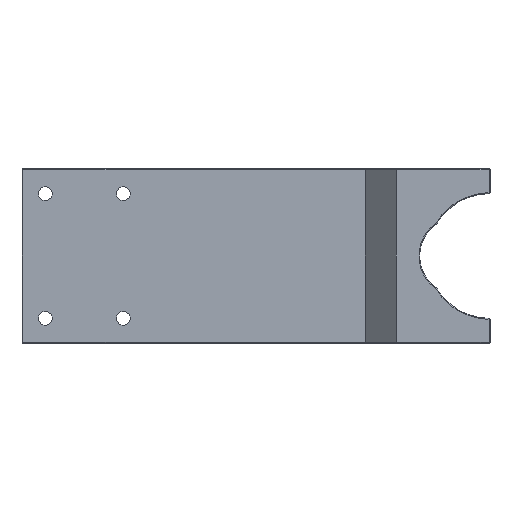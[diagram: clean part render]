
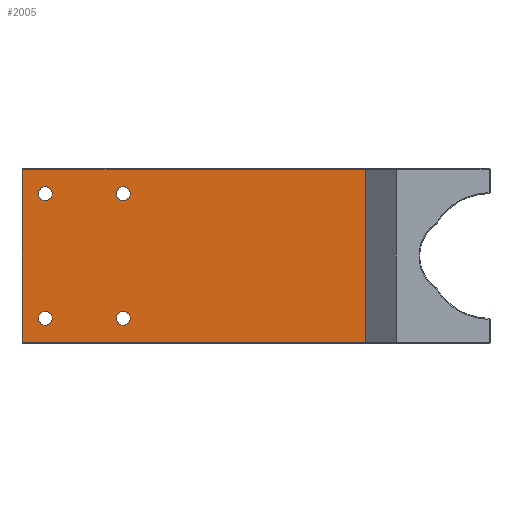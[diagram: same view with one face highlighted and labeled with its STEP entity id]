
A CAD part, front view. The second image highlights one B-rep face of the part: STEP entity #2005.
In plain terms, the highlighted planar face has unit normal (0, -1, 0).
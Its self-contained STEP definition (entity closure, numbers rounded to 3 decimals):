
#4 = DIRECTION ( 'NONE',  ( -1., 0., 0. ) ) ;
#35 = DIRECTION ( 'NONE',  ( -1., 0., 0. ) ) ;
#78 = EDGE_CURVE ( 'NONE', #1917, #2526, #967, .T. ) ;
#131 = CIRCLE ( 'NONE', #1999, 2.25 ) ;
#145 = DIRECTION ( 'NONE',  ( 0., 1., 0. ) ) ;
#161 = DIRECTION ( 'NONE',  ( -1., 0., 0. ) ) ;
#179 = CARTESIAN_POINT ( 'NONE',  ( 7.5, -13., 20. ) ) ;
#188 = FACE_OUTER_BOUND ( 'NONE', #2290, .T. ) ;
#192 = AXIS2_PLACEMENT_3D ( 'NONE', #751, #1373, #4 ) ;
#205 = DIRECTION ( 'NONE',  ( 1., 0., 0. ) ) ;
#208 = ORIENTED_EDGE ( 'NONE', *, *, #666, .T. ) ;
#224 = EDGE_LOOP ( 'NONE', ( #426, #380 ) ) ;
#226 = CARTESIAN_POINT ( 'NONE',  ( 0.3, -13., 27.7 ) ) ;
#233 = AXIS2_PLACEMENT_3D ( 'NONE', #1235, #1409, #2240 ) ;
#262 = CARTESIAN_POINT ( 'NONE',  ( 32.5, -13., -22.25 ) ) ;
#316 = CARTESIAN_POINT ( 'NONE',  ( 32.5, -13., -20. ) ) ;
#326 = LINE ( 'NONE', #1481, #1173 ) ;
#350 = LINE ( 'NONE', #545, #2053 ) ;
#379 = DIRECTION ( 'NONE',  ( -1., 0., 0. ) ) ;
#380 = ORIENTED_EDGE ( 'NONE', *, *, #1259, .T. ) ;
#393 = DIRECTION ( 'NONE',  ( 0., 1., 0. ) ) ;
#408 = FACE_BOUND ( 'NONE', #1074, .T. ) ;
#426 = ORIENTED_EDGE ( 'NONE', *, *, #609, .T. ) ;
#444 = DIRECTION ( 'NONE',  ( 0., 1., 0. ) ) ;
#457 = EDGE_LOOP ( 'NONE', ( #649, #1547 ) ) ;
#465 = CIRCLE ( 'NONE', #2039, 2.25 ) ;
#467 = CARTESIAN_POINT ( 'NONE',  ( 7.5, -13., -17.75 ) ) ;
#538 = VERTEX_POINT ( 'NONE', #467 ) ;
#545 = CARTESIAN_POINT ( 'NONE',  ( 0.3, -13., 28. ) ) ;
#609 = EDGE_CURVE ( 'NONE', #538, #1353, #1930, .T. ) ;
#646 = VECTOR ( 'NONE', #205, 1000. ) ;
#649 = ORIENTED_EDGE ( 'NONE', *, *, #1961, .T. ) ;
#654 = CARTESIAN_POINT ( 'NONE',  ( 0.3, -13., -27.7 ) ) ;
#666 = EDGE_CURVE ( 'NONE', #2192, #1799, #350, .T. ) ;
#751 = CARTESIAN_POINT ( 'NONE',  ( 7.5, -13., -20. ) ) ;
#764 = CARTESIAN_POINT ( 'NONE',  ( 110., -13., 28. ) ) ;
#794 = ORIENTED_EDGE ( 'NONE', *, *, #1332, .T. ) ;
#918 = LINE ( 'NONE', #2175, #646 ) ;
#921 = ORIENTED_EDGE ( 'NONE', *, *, #1731, .T. ) ;
#967 = LINE ( 'NONE', #764, #1934 ) ;
#968 = DIRECTION ( 'NONE',  ( 0., 1., 0. ) ) ;
#1006 = EDGE_CURVE ( 'NONE', #1198, #1509, #1806, .T. ) ;
#1039 = DIRECTION ( 'NONE',  ( 0., 1., 0. ) ) ;
#1074 = EDGE_LOOP ( 'NONE', ( #794, #1940 ) ) ;
#1119 = CARTESIAN_POINT ( 'NONE',  ( 110., -13., 27.7 ) ) ;
#1139 = ORIENTED_EDGE ( 'NONE', *, *, #2369, .T. ) ;
#1140 = DIRECTION ( 'NONE',  ( 0., 0., -1. ) ) ;
#1141 = AXIS2_PLACEMENT_3D ( 'NONE', #1426, #444, #2027 ) ;
#1159 = FACE_BOUND ( 'NONE', #457, .T. ) ;
#1173 = VECTOR ( 'NONE', #2268, 1000. ) ;
#1198 = VERTEX_POINT ( 'NONE', #1902 ) ;
#1203 = CARTESIAN_POINT ( 'NONE',  ( 110., -13., 28. ) ) ;
#1235 = CARTESIAN_POINT ( 'NONE',  ( 32.5, -13., 20. ) ) ;
#1259 = EDGE_CURVE ( 'NONE', #1353, #538, #1307, .T. ) ;
#1307 = CIRCLE ( 'NONE', #192, 2.25 ) ;
#1329 = DIRECTION ( 'NONE',  ( 0., 0., -1. ) ) ;
#1332 = EDGE_CURVE ( 'NONE', #2066, #2239, #2302, .T. ) ;
#1353 = VERTEX_POINT ( 'NONE', #1820 ) ;
#1373 = DIRECTION ( 'NONE',  ( 0., 1., 0. ) ) ;
#1393 = PLANE ( 'NONE',  #2407 ) ;
#1409 = DIRECTION ( 'NONE',  ( 0., 1., 0. ) ) ;
#1426 = CARTESIAN_POINT ( 'NONE',  ( 7.5, -13., -20. ) ) ;
#1434 = AXIS2_PLACEMENT_3D ( 'NONE', #179, #968, #1759 ) ;
#1458 = CIRCLE ( 'NONE', #1959, 2.25 ) ;
#1481 = CARTESIAN_POINT ( 'NONE',  ( 110., -13., 27.7 ) ) ;
#1509 = VERTEX_POINT ( 'NONE', #1929 ) ;
#1520 = CARTESIAN_POINT ( 'NONE',  ( 32.5, -13., -17.75 ) ) ;
#1523 = DIRECTION ( 'NONE',  ( 0., 1., 0. ) ) ;
#1545 = AXIS2_PLACEMENT_3D ( 'NONE', #2513, #145, #379 ) ;
#1547 = ORIENTED_EDGE ( 'NONE', *, *, #1826, .T. ) ;
#1574 = EDGE_CURVE ( 'NONE', #1799, #2526, #918, .T. ) ;
#1655 = EDGE_LOOP ( 'NONE', ( #921, #1692 ) ) ;
#1692 = ORIENTED_EDGE ( 'NONE', *, *, #1006, .T. ) ;
#1702 = DIRECTION ( 'NONE',  ( -1., 0., 0. ) ) ;
#1714 = ORIENTED_EDGE ( 'NONE', *, *, #78, .F. ) ;
#1731 = EDGE_CURVE ( 'NONE', #1509, #1198, #465, .T. ) ;
#1759 = DIRECTION ( 'NONE',  ( -1., 0., 0. ) ) ;
#1799 = VERTEX_POINT ( 'NONE', #654 ) ;
#1806 = CIRCLE ( 'NONE', #233, 2.25 ) ;
#1818 = DIRECTION ( 'NONE',  ( 0., 1., 0. ) ) ;
#1820 = CARTESIAN_POINT ( 'NONE',  ( 7.5, -13., -22.25 ) ) ;
#1826 = EDGE_CURVE ( 'NONE', #2227, #2270, #1458, .T. ) ;
#1902 = CARTESIAN_POINT ( 'NONE',  ( 32.5, -13., 17.75 ) ) ;
#1917 = VERTEX_POINT ( 'NONE', #1119 ) ;
#1929 = CARTESIAN_POINT ( 'NONE',  ( 32.5, -13., 22.25 ) ) ;
#1930 = CIRCLE ( 'NONE', #1141, 2.25 ) ;
#1934 = VECTOR ( 'NONE', #1329, 1000. ) ;
#1940 = ORIENTED_EDGE ( 'NONE', *, *, #2021, .T. ) ;
#1959 = AXIS2_PLACEMENT_3D ( 'NONE', #2225, #1818, #35 ) ;
#1961 = EDGE_CURVE ( 'NONE', #2270, #2227, #131, .T. ) ;
#1984 = FACE_BOUND ( 'NONE', #1655, .T. ) ;
#1999 = AXIS2_PLACEMENT_3D ( 'NONE', #316, #1523, #1702 ) ;
#2005 = ADVANCED_FACE ( 'NONE', ( #2528, #408, #1159, #1984, #188 ), #1393, .F. ) ;
#2021 = EDGE_CURVE ( 'NONE', #2239, #2066, #2375, .T. ) ;
#2027 = DIRECTION ( 'NONE',  ( -1., 0., 0. ) ) ;
#2039 = AXIS2_PLACEMENT_3D ( 'NONE', #2391, #1039, #2246 ) ;
#2053 = VECTOR ( 'NONE', #1140, 1000. ) ;
#2066 = VERTEX_POINT ( 'NONE', #2191 ) ;
#2175 = CARTESIAN_POINT ( 'NONE',  ( 110., -13., -27.7 ) ) ;
#2191 = CARTESIAN_POINT ( 'NONE',  ( 7.5, -13., 22.25 ) ) ;
#2192 = VERTEX_POINT ( 'NONE', #226 ) ;
#2222 = CARTESIAN_POINT ( 'NONE',  ( 7.5, -13., 17.75 ) ) ;
#2225 = CARTESIAN_POINT ( 'NONE',  ( 32.5, -13., -20. ) ) ;
#2227 = VERTEX_POINT ( 'NONE', #262 ) ;
#2239 = VERTEX_POINT ( 'NONE', #2222 ) ;
#2240 = DIRECTION ( 'NONE',  ( -1., 0., 0. ) ) ;
#2246 = DIRECTION ( 'NONE',  ( -1., 0., 0. ) ) ;
#2268 = DIRECTION ( 'NONE',  ( -1., 0., 0. ) ) ;
#2270 = VERTEX_POINT ( 'NONE', #1520 ) ;
#2290 = EDGE_LOOP ( 'NONE', ( #208, #2379, #1714, #1139 ) ) ;
#2302 = CIRCLE ( 'NONE', #1434, 2.25 ) ;
#2369 = EDGE_CURVE ( 'NONE', #1917, #2192, #326, .T. ) ;
#2375 = CIRCLE ( 'NONE', #1545, 2.25 ) ;
#2379 = ORIENTED_EDGE ( 'NONE', *, *, #1574, .T. ) ;
#2391 = CARTESIAN_POINT ( 'NONE',  ( 32.5, -13., 20. ) ) ;
#2407 = AXIS2_PLACEMENT_3D ( 'NONE', #1203, #393, #161 ) ;
#2513 = CARTESIAN_POINT ( 'NONE',  ( 7.5, -13., 20. ) ) ;
#2526 = VERTEX_POINT ( 'NONE', #2567 ) ;
#2528 = FACE_BOUND ( 'NONE', #224, .T. ) ;
#2567 = CARTESIAN_POINT ( 'NONE',  ( 110., -13., -27.7 ) ) ;
